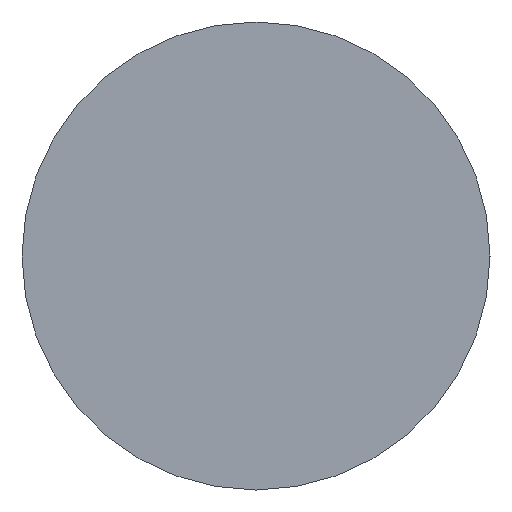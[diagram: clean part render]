
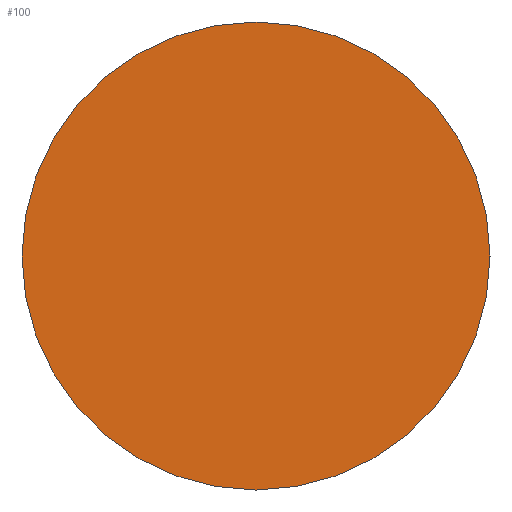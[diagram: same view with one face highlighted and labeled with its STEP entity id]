
A CAD part, left-side view. The second image highlights one B-rep face of the part: STEP entity #100.
In plain terms, the highlighted planar face has unit normal (-1, 0, 0).
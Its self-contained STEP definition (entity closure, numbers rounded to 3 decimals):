
#26 = CARTESIAN_POINT ( 'NONE',  ( -1.75, 0.763, -0.763 ) ) ;
#27 = VERTEX_POINT ( 'NONE', #26 ) ;
#34 = CARTESIAN_POINT ( 'NONE',  ( -1.75, 0.763, 0.763 ) ) ;
#35 = VERTEX_POINT ( 'NONE', #34 ) ;
#36 = CARTESIAN_POINT ( 'NONE',  ( -1.75, 0.763, 0. ) ) ;
#37 = DIRECTION ( 'NONE',  ( -1., 0., 0. ) ) ;
#38 = DIRECTION ( 'NONE',  ( 0., 0., 1. ) ) ;
#39 = AXIS2_PLACEMENT_3D ( 'NONE', #36, #37, #38 ) ;
#40 = CIRCLE ( 'NONE', #39, 0.763) ;
#41 = EDGE_CURVE ( 'NONE', #35, #27, #40, .T. ) ;
#76 = CARTESIAN_POINT ( 'NONE',  ( -1.75, 0.763, 0. ) ) ;
#77 = DIRECTION ( 'NONE',  ( -1., 0., 0. ) ) ;
#78 = DIRECTION ( 'NONE',  ( 0., 0., 1. ) ) ;
#79 = AXIS2_PLACEMENT_3D ( 'NONE', #76, #77, #78 ) ;
#80 = CIRCLE ( 'NONE', #79, 0.763) ;
#81 = EDGE_CURVE ( 'NONE', #27, #35, #80, .T. ) ;
#91 = ORIENTED_EDGE ( 'NONE', *, *, #41, .T. ) ;
#92 = ORIENTED_EDGE ( 'NONE', *, *, #81, .T. ) ;
#93 = EDGE_LOOP ( 'NONE', ( #91, #92 ) ) ;
#94 = FACE_OUTER_BOUND ( 'NONE', #93, .T. ) ;
#95 = CARTESIAN_POINT ( 'NONE',  ( -1.75, 0., 0. ) ) ;
#96 = DIRECTION ( 'NONE',  ( -1., 0., 0. ) ) ;
#97 = DIRECTION ( 'NONE',  ( 0., 0., 1. ) ) ;
#98 = AXIS2_PLACEMENT_3D ( 'NONE', #95, #96, #97 ) ;
#99 = PLANE ( 'NONE', #98 ) ;
#100 = ADVANCED_FACE ( 'NONE', ( #94 ), #99, .T. ) ;
